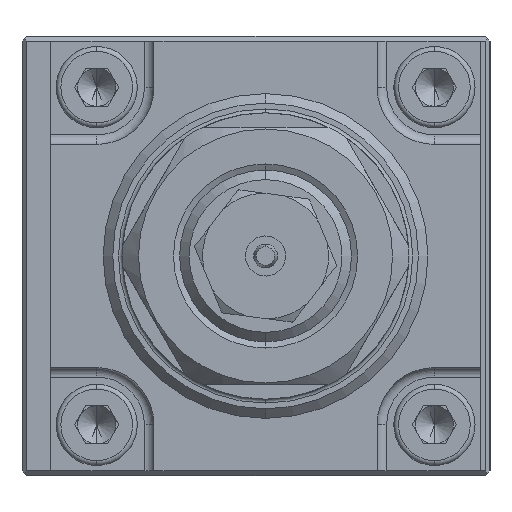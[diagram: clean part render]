
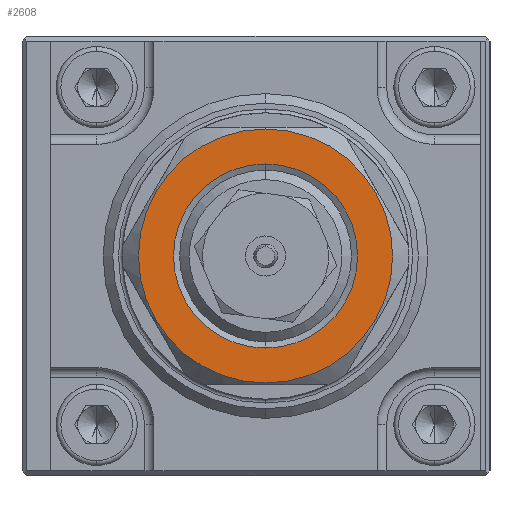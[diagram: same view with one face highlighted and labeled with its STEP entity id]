
A CAD part, left-side view. The second image highlights one B-rep face of the part: STEP entity #2608.
In plain terms, the highlighted planar face has unit normal (-1, 0, 0).
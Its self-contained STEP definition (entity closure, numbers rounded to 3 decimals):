
#2608 = ADVANCED_FACE ( 'NONE', ( #22258, #22262 ), #23640, .T. ) ;
#3463 = ORIENTED_EDGE ( 'NONE', *, *, #4194, .T. ) ;
#3464 = ORIENTED_EDGE ( 'NONE', *, *, #4277, .T. ) ;
#3465 = ORIENTED_EDGE ( 'NONE', *, *, #4254, .F. ) ;
#3466 = ORIENTED_EDGE ( 'NONE', *, *, #4248, .F. ) ;
#3828 = EDGE_LOOP ( 'NONE', ( #3463, #3464 ) ) ;
#3829 = EDGE_LOOP ( 'NONE', ( #3466, #3465 ) ) ;
#4194 = EDGE_CURVE ( 'NONE', #16603, #16602, #19926, .T. ) ;
#4248 = EDGE_CURVE ( 'NONE', #16644, #16645, #19958, .T. ) ;
#4254 = EDGE_CURVE ( 'NONE', #16645, #16644, #19959, .T. ) ;
#4277 = EDGE_CURVE ( 'NONE', #16602, #16603, #19972, .T. ) ;
#16602 = VERTEX_POINT ( 'NONE', #47763 ) ;
#16603 = VERTEX_POINT ( 'NONE', #47764 ) ;
#16644 = VERTEX_POINT ( 'NONE', #47805 ) ;
#16645 = VERTEX_POINT ( 'NONE', #47806 ) ;
#19926 = CIRCLE ( 'NONE', #25049, 9.636 ) ;
#19958 = CIRCLE ( 'NONE', #25105, 13.3 ) ;
#19959 = CIRCLE ( 'NONE', #25107, 13.3 ) ;
#19972 = CIRCLE ( 'NONE', #25124, 9.636 ) ;
#22258 = FACE_BOUND ( 'NONE', #3828, .T. ) ;
#22262 = FACE_OUTER_BOUND ( 'NONE', #3829, .T. ) ;
#22264 = AXIS2_PLACEMENT_3D ( 'NONE', #23641, #23642, #23643 ) ;
#23640 = PLANE ( 'NONE',  #22264 ) ;
#23641 = CARTESIAN_POINT ( 'NONE',  ( -87.302, 12.8, 0. ) ) ;
#23642 = DIRECTION ( 'NONE',  ( -1., 0., 0. ) ) ;
#23643 = DIRECTION ( 'NONE',  ( 0., 0., 1. ) ) ;
#25049 = AXIS2_PLACEMENT_3D ( 'NONE', #26261, #26262, #26263 ) ;
#25105 = AXIS2_PLACEMENT_3D ( 'NONE', #26417, #26424, #26425 ) ;
#25107 = AXIS2_PLACEMENT_3D ( 'NONE', #26470, #26474, #26475 ) ;
#25124 = AXIS2_PLACEMENT_3D ( 'NONE', #26582, #26583, #26584 ) ;
#26261 = CARTESIAN_POINT ( 'NONE',  ( -87.302, -0.5, 0. ) ) ;
#26262 = DIRECTION ( 'NONE',  ( 1., 0., 0. ) ) ;
#26263 = DIRECTION ( 'NONE',  ( 0., 0., 1. ) ) ;
#26417 = CARTESIAN_POINT ( 'NONE',  ( -87.302, -0.5, 0. ) ) ;
#26424 = DIRECTION ( 'NONE',  ( 1., 0., 0. ) ) ;
#26425 = DIRECTION ( 'NONE',  ( 0., 0., -1. ) ) ;
#26470 = CARTESIAN_POINT ( 'NONE',  ( -87.302, -0.5, 0. ) ) ;
#26474 = DIRECTION ( 'NONE',  ( 1., 0., 0. ) ) ;
#26475 = DIRECTION ( 'NONE',  ( 0., 0., -1. ) ) ;
#26582 = CARTESIAN_POINT ( 'NONE',  ( -87.302, -0.5, 0. ) ) ;
#26583 = DIRECTION ( 'NONE',  ( 1., 0., 0. ) ) ;
#26584 = DIRECTION ( 'NONE',  ( 0., 0., 1. ) ) ;
#47763 = CARTESIAN_POINT ( 'NONE',  ( -87.302, -0.5, -9.636 ) ) ;
#47764 = CARTESIAN_POINT ( 'NONE',  ( -87.302, -0.5, 9.636 ) ) ;
#47805 = CARTESIAN_POINT ( 'NONE',  ( -87.302, -0.5, -13.3 ) ) ;
#47806 = CARTESIAN_POINT ( 'NONE',  ( -87.302, -0.5, 13.3 ) ) ;
